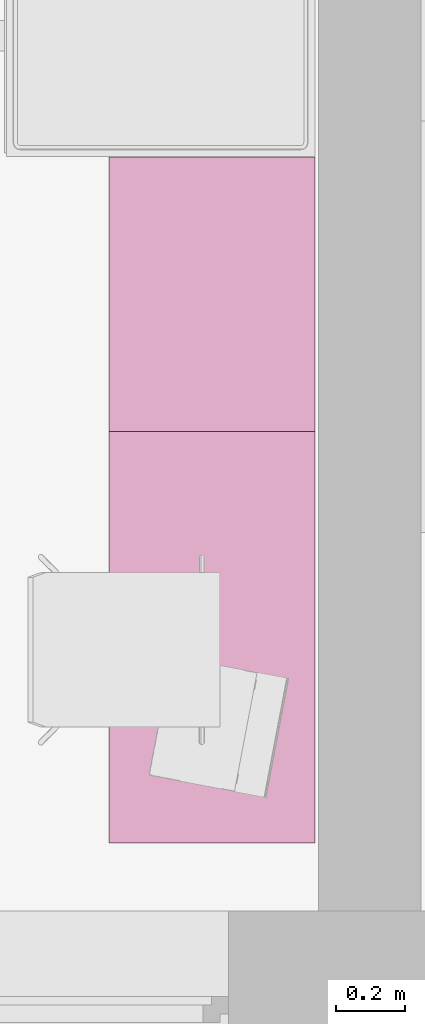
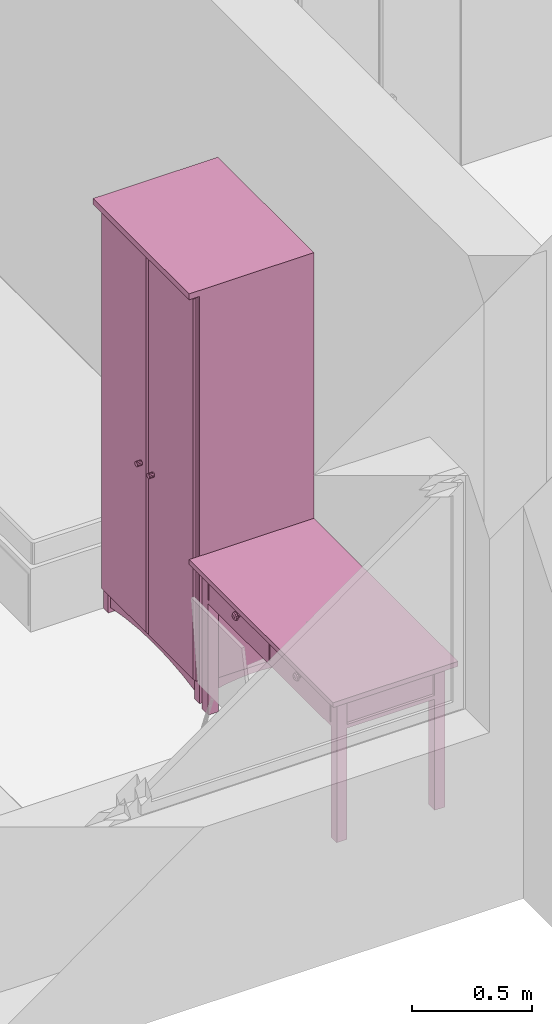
# One storey, part 115 of 165: 2 furnishings.
"""IFC2X3 building model written with IfcOpenShell, lengths in millimetres."""

import ifcopenshell
import ifcopenshell.guid

model = None  # the IFC model being written
_history = None  # IfcOwnerHistory: only IFC2X3 demands one
_inside = {}  # id of a spatial element -> (the spatial element, [elements in it])
_under = {}  # id of a project, library or spatial element -> (it, [spatial elements below it])
_declared = {}  # id of a project -> (the project, [libraries it declares])
_typed = {}  # id of a type object -> (the type object, [elements of that type])
_made_of = {}  # id of a material, layer set ... -> (it, [elements and type objects made of it])


def new_model(schema):
    """Start an empty IFC model of exactly this schema.

    Asked for "IFC4X3", IfcOpenShell would pick the latest addendum, in which some entities
    have other attributes; the version numbers below select the first issue.
    IFC2X3 requires an IfcOwnerHistory on every rooted entity: one is made here for all.
    """
    global model, _history
    if schema == "IFC4X3":
        model = ifcopenshell.file(schema_version=(4, 3, 0, 0))
    else:
        model = ifcopenshell.file(schema=schema)
    _inside.clear()
    _under.clear()
    _declared.clear()
    _typed.clear()
    _made_of.clear()
    _history = None
    if model.schema == "IFC2X3":
        org = make("IfcOrganization", Name="unknown")
        user = make(
            "IfcPersonAndOrganization",
            ThePerson=make("IfcPerson", FamilyName="unknown"),
            TheOrganization=org,
        )
        app = make(
            "IfcApplication",
            ApplicationDeveloper=org,
            Version="unknown",
            ApplicationFullName="unknown",
            ApplicationIdentifier="unknown",
        )
        _history = make(
            "IfcOwnerHistory",
            OwningUser=user,
            OwningApplication=app,
            ChangeAction="ADDED",
            CreationDate=0,
        )
    return model


def make(cls, **values):
    """One entity of the class cls with the attributes given. An attribute that is None is left unset."""
    return model.create_entity(
        cls, **{name: value for name, value in values.items() if value is not None}
    )


def entity(cls, *values):
    """Any entity or typed value of the class cls, its attributes in the order of the schema. None: left unset."""
    e = model.create_entity(cls)
    for i, value in enumerate(values):
        if value is not None:
            e[i] = value
    return e


def rooted(cls, **values):
    """An entity with a GlobalId (a new one), such as an element, a storey or a relation."""
    return make(cls, GlobalId=ifcopenshell.guid.new(), OwnerHistory=_history, **values)


def si_unit(unit_type, name, prefix=None):
    """IfcSIUnit, for example si_unit("LENGTHUNIT", "METRE", prefix="MILLI")."""
    return make("IfcSIUnit", UnitType=unit_type, Prefix=prefix, Name=name)


def converted_unit(unit_type, name, factor, base, dimensions=None, offset=None):
    """IfcConversionBasedUnit, such as the inch: factor (a typed value) times the base unit."""
    return make(
        "IfcConversionBasedUnit"
        if offset is None
        else "IfcConversionBasedUnitWithOffset",
        ConversionOffset=offset,
        Dimensions=None
        if dimensions is None
        else entity("IfcDimensionalExponents", *dimensions),
        UnitType=unit_type,
        Name=name,
        ConversionFactor=make(
            "IfcMeasureWithUnit", ValueComponent=factor, UnitComponent=base
        ),
    )


def money_unit(currency):
    """IfcMonetaryUnit."""
    return make("IfcMonetaryUnit", Currency=currency)


def assignment(units):
    """IfcUnitAssignment: the units of a project."""
    return None if units is None else make("IfcUnitAssignment", Units=units)


def point(xyz):
    """IfcCartesianPoint."""
    return None if xyz is None else make("IfcCartesianPoint", Coordinates=xyz)


def direction(xyz):
    """IfcDirection."""
    return None if xyz is None else make("IfcDirection", DirectionRatios=xyz)


def frame(location, z_axis=None, x_axis=None):
    """IfcAxis2Placement3D, a coordinate frame: its origin and axes. An axis left out is left unset."""
    return make(
        "IfcAxis2Placement3D",
        Location=point(location),
        Axis=direction(z_axis),
        RefDirection=direction(x_axis),
    )


def origin_with_axes():
    """The frame at (0, 0, 0) with the z axis (0, 0, 1) and the x axis (1, 0, 0) written out."""
    return frame((0.0, 0.0, 0.0), z_axis=(0.0, 0.0, 1.0), x_axis=(1.0, 0.0, 0.0))


def place(relative_to, where):
    """IfcLocalPlacement: puts the frame where relative to a parent placement (None: the world)."""
    return make(
        "IfcLocalPlacement", PlacementRelTo=relative_to, RelativePlacement=where
    )


def context(
    kind, dimensions, precision=None, world=None, true_north=None, identifier=None
):
    """IfcGeometricRepresentationContext, for example the 3D "Model" context."""
    return make(
        "IfcGeometricRepresentationContext",
        ContextIdentifier=identifier,
        ContextType=kind,
        CoordinateSpaceDimension=dimensions,
        Precision=precision,
        WorldCoordinateSystem=world,
        TrueNorth=true_north,
    )


def subcontext(parent, identifier, kind, view, scale=None):
    """IfcGeometricRepresentationSubContext, for example "Body" below "Model"."""
    return make(
        "IfcGeometricRepresentationSubContext",
        ContextIdentifier=identifier,
        ContextType=kind,
        ParentContext=parent,
        TargetScale=scale,
        TargetView=view,
    )


def project(units=None, contexts=None):
    """IfcProject with its units and contexts."""
    return rooted(
        "IfcProject",
        Name="project",
        RepresentationContexts=contexts,
        UnitsInContext=assignment(units),
    )


def spatial(cls, under=None, at=None, **own):
    """A site, building, storey or space (cls), placed at a placement, below another one or the project."""
    s = rooted(cls, ObjectPlacement=at, **own)
    if under is not None:
        _under.setdefault(under.id(), (under, []))[1].append(s)
    return s


def faces_of(points, faces, orient=None, outer=None):
    """IfcFace entities. A face is a list of loops; a loop is a list of indices into points, from 0.

    orient and outer hold one flag for each loop. By default every Orientation is true, the
    first loop of a face is its IfcFaceOuterBound and the others are IfcFaceBound.
    """
    made = []
    for i, loops in enumerate(faces):
        bounds = []
        for j, loop in enumerate(loops):
            is_outer = j == 0 if outer is None else outer[i][j]
            bounds.append(
                make(
                    "IfcFaceOuterBound" if is_outer else "IfcFaceBound",
                    Bound=make("IfcPolyLoop", Polygon=[points[k] for k in loop]),
                    Orientation=True if orient is None else orient[i][j],
                )
            )
        made.append(make("IfcFace", Bounds=bounds))
    return made


def faceted_brep(points, faces, orient=None, outer=None, voids=None):
    """IfcFacetedBrep: a solid bounded by flat faces; with voids (closed shells), ...WithVoids."""
    shared = [point(p) for p in points]
    hull = make("IfcClosedShell", CfsFaces=faces_of(shared, faces, orient, outer))
    if voids is None:
        return make("IfcFacetedBrep", Outer=hull)
    return make(
        "IfcFacetedBrepWithVoids",
        Outer=hull,
        Voids=[
            make(cls, CfsFaces=faces_of(shared, fs, o, b)) for cls, fs, o, b in voids
        ],
    )


def shape(context_of_items, identifier, shape_type, items):
    """IfcShapeRepresentation: the items that make up one representation, for example the "Body"."""
    return make(
        "IfcShapeRepresentation",
        ContextOfItems=context_of_items,
        RepresentationIdentifier=identifier,
        RepresentationType=shape_type,
        Items=items,
    )


def source(mapping_origin, context_of_items, identifier, shape_type, items):
    """IfcRepresentationMap: a shape defined once, which mapped items show again and again."""
    return make(
        "IfcRepresentationMap",
        MappingOrigin=mapping_origin,
        MappedRepresentation=shape(context_of_items, identifier, shape_type, items),
    )


def transform(
    local_origin,
    x_axis=None,
    y_axis=None,
    z_axis=None,
    scale=None,
    scale2=None,
    scale3=None,
    uniform=True,
):
    """IfcCartesianTransformationOperator3D, or its non-uniform kind. x_axis, y_axis, z_axis: its Axis1, 2, 3."""
    if uniform:
        return make(
            "IfcCartesianTransformationOperator3D",
            Axis1=direction(x_axis),
            Axis2=direction(y_axis),
            LocalOrigin=point(local_origin),
            Scale=scale,
            Axis3=direction(z_axis),
        )
    return make(
        "IfcCartesianTransformationOperator3DnonUniform",
        Axis1=direction(x_axis),
        Axis2=direction(y_axis),
        LocalOrigin=point(local_origin),
        Scale=scale,
        Axis3=direction(z_axis),
        Scale2=scale2,
        Scale3=scale3,
    )


def mapped(mapping_source, mapping_target):
    """IfcMappedItem: shows the shape of a source again, moved by a transform."""
    return make(
        "IfcMappedItem", MappingSource=mapping_source, MappingTarget=mapping_target
    )


def material(Name=None, Category=None):
    """IfcMaterial."""
    return make("IfcMaterial", Name=Name, Category=Category)


def material_list(materials):
    """IfcMaterialList."""
    return make("IfcMaterialList", Materials=materials)


def made_of(thing, what):
    """Note that an element or type object is made of a material, layer set ...; save() writes the relation."""
    if what is not None:
        _made_of.setdefault(what.id(), (what, []))[1].append(thing)
    return thing


def type_object(cls, material=None, **own):
    """A type object (cls), such as IfcWallType, which elements share."""
    return made_of(rooted(cls, **own), material)


def element(
    cls,
    number,
    at=None,
    inside=None,
    cuts=None,
    type_object=None,
    material=None,
    context=None,
    identifier="Body",
    shape_type=None,
    held_by="IfcProductDefinitionShape",
    body=None,
    shapes=None,
    **own,
):
    """One element of the class cls, such as IfcWall. Its Tag is "e" and its number.

    at: its placement. inside: the storey or other place that contains it. cuts: it is an
    opening in that element (IfcRelVoidsElement). A single representation is given by context,
    identifier, shape_type and body (its items); several are given by shapes. held_by: the class
    of the entity that holds the representations. save() writes the other relations.
    """
    e = rooted(cls, Tag="e%d" % number, ObjectPlacement=at, **own)
    if body is not None:
        shapes = [shape(context, identifier, shape_type, body)]
    if shapes is not None:
        e.Representation = make(held_by, Representations=shapes)
    if inside is not None:
        _inside.setdefault(inside.id(), (inside, []))[1].append(e)
    if cuts is not None:
        rooted(
            "IfcRelVoidsElement", RelatingBuildingElement=cuts, RelatedOpeningElement=e
        )
    if type_object is not None:
        _typed.setdefault(type_object.id(), (type_object, []))[1].append(e)
    return made_of(e, material)


def aggregate(whole, parts):
    """IfcRelAggregates: a whole, such as a stair, and the parts it consists of."""
    return rooted("IfcRelAggregates", RelatingObject=whole, RelatedObjects=parts)


def save(model, path):
    """Write the relations noted so far, then the file.

    IfcRelAggregates (storeys below a building ...), IfcRelContainedInSpatialStructure (elements
    in a storey), IfcRelDefinesByType, IfcRelAssociatesMaterial and IfcRelDeclares: one each for
    every whole, place, type object, material and project.
    """
    for whole, parts in _under.values():
        aggregate(whole, parts)
    for where, things in _inside.values():
        rooted(
            "IfcRelContainedInSpatialStructure",
            RelatedElements=things,
            RelatingStructure=where,
        )
    for kind, things in _typed.values():
        rooted("IfcRelDefinesByType", RelatedObjects=things, RelatingType=kind)
    for what, things in _made_of.values():
        rooted("IfcRelAssociatesMaterial", RelatedObjects=things, RelatingMaterial=what)
    for by, libraries in _declared.values():
        rooted("IfcRelDeclares", RelatingContext=by, RelatedDefinitions=libraries)
    model.write(path)


model = new_model("IFC2X3")

# Units and contexts
model_context = context("Model", 3, precision=1e-05, world=origin_with_axes(), true_north=direction((0.0, 1.0)))
body_context = subcontext(model_context, "Body", "Model", "MODEL_VIEW")
ifc_project = project(units=[si_unit("LENGTHUNIT", "METRE", prefix="MILLI"), si_unit("AREAUNIT", "SQUARE_METRE"), si_unit("VOLUMEUNIT", "CUBIC_METRE"), converted_unit("PLANEANGLEUNIT", "DEGREE", entity("IfcPlaneAngleMeasure", 0.0174532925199), si_unit("PLANEANGLEUNIT", "RADIAN"), dimensions=[0, 0, 0, 0, 0, 0, 0]), si_unit("SOLIDANGLEUNIT", "STERADIAN"), money_unit("USD"), converted_unit("TIMEUNIT", "Year", entity("IfcTimeMeasure", 31556926.0), si_unit("TIMEUNIT", "SECOND"), dimensions=[0, 0, 0, 0, 0, 0, 0]), si_unit("MASSUNIT", "GRAM"), si_unit("THERMODYNAMICTEMPERATUREUNIT", "DEGREE_CELSIUS"), si_unit("LUMINOUSINTENSITYUNIT", "LUMEN")], contexts=[model_context])

# Site, building, storey
site_placement = place(None, origin_with_axes())
site = spatial("IfcSite", under=ifc_project, at=site_placement, Name="Site", CompositionType="ELEMENT")
building_placement = place(site_placement, origin_with_axes())
building = spatial("IfcBuilding", under=site, at=building_placement, Name="Building", CompositionType="ELEMENT")
storey_placement = place(building_placement, frame((0.0, 0.0, 6300.0), z_axis=(0.0, 0.0, 1.0), x_axis=(1.0, 0.0, 0.0)))
storey = spatial("IfcBuildingStorey", under=building, at=storey_placement, Name="4KORRUS", CompositionType="ELEMENT", Elevation=6300.0)

# Furnishings
ifc_material = material(Name="Background")
ifc_material_list = material_list([ifc_material])
furnishing_element_type_1 = type_object("IfcFurnishingElementType", Name="Cupboard 19")
shared_shape_1 = source(origin_with_axes(), body_context, "Body", "Brep", [
    faceted_brep([(-780.0, 600.0, 120.0), (-780.0, 580.0, 120.0), (-780.0, 580.0, 2050.0), (-780.0, 600.0, 2050.0), (-20.0, 600.0, 120.0), (-20.0, 580.0, 120.0), (-20.0, 580.0, 2050.0), (-20.0, 600.0, 2050.0)], [[[0, 1, 2, 3]], [[0, 4, 5, 1]], [[1, 5, 6, 2]], [[3, 2, 6, 7]], [[4, 0, 3, 7]], [[5, 4, 7, 6]]]),
    faceted_brep([(0.0, 50.0, 100.0), (-20.0, 50.0, 100.0), (-20.0, 600.0, 100.0), (0.0, 600.0, 100.0), (0.0, 50.0, 2070.0), (-20.0, 50.0, 2070.0), (-20.0, 600.0, 2070.0), (0.0, 600.0, 2070.0)], [[[0, 1, 2, 3]], [[1, 0, 4, 5]], [[2, 1, 5, 6]], [[3, 2, 6, 7]], [[0, 3, 7, 4]], [[5, 4, 7, 6]]]),
    faceted_brep([(-780.0, 50.0, 100.0), (-800.0, 50.0, 100.0), (-800.0, 600.0, 100.0), (-780.0, 600.0, 100.0), (-780.0, 50.0, 2070.0), (-800.0, 50.0, 2070.0), (-800.0, 600.0, 2070.0), (-780.0, 600.0, 2070.0)], [[[0, 1, 2, 3]], [[1, 0, 4, 5]], [[2, 1, 5, 6]], [[3, 2, 6, 7]], [[0, 3, 7, 4]], [[5, 4, 7, 6]]]),
    faceted_brep([(-20.0, 50.0, 100.0), (-780.0, 50.0, 100.0), (-780.0, 600.0, 100.0), (-20.0, 600.0, 100.0), (-20.0, 50.0, 120.0), (-780.0, 50.0, 120.0), (-780.0, 600.0, 120.0), (-20.0, 600.0, 120.0)], [[[0, 1, 2, 3]], [[1, 0, 4, 5]], [[2, 1, 5, 6]], [[3, 2, 6, 7]], [[0, 3, 7, 4]], [[5, 4, 7, 6]]]),
    faceted_brep([(-20.0, 50.0, 2050.0), (-780.0, 50.0, 2050.0), (-780.0, 600.0, 2050.0), (-20.0, 600.0, 2050.0), (-20.0, 50.0, 2070.0), (-780.0, 50.0, 2070.0), (-780.0, 600.0, 2070.0), (-20.0, 600.0, 2070.0)], [[[0, 1, 2, 3]], [[1, 0, 4, 5]], [[2, 1, 5, 6]], [[3, 2, 6, 7]], [[0, 3, 7, 4]], [[5, 4, 7, 6]]]),
    faceted_brep([(0.0, 600.0, 2070.0), (0.0, 600.0, 2100.0), (0.0, 0.0, 2100.0), (0.0, 0.0, 2070.0), (-800.0, 600.0, 2070.0), (-800.0, 600.0, 2100.0), (-800.0, 0.0, 2100.0), (-800.0, 0.0, 2070.0)], [[[0, 1, 2, 3]], [[4, 5, 1, 0]], [[1, 5, 6, 2]], [[3, 2, 6, 7]], [[0, 3, 7, 4]], [[7, 6, 5, 4]]]),
    faceted_brep([(-760.0, 590.0, 25.0), (-640.962, 590.0, 45.8), (-640.962, 570.0, 45.8), (-760.0, 570.0, 25.0), (-760.0, 590.0, 100.0), (-40.0, 590.0, 100.0), (-40.0, 590.0, 25.0), (-159.038, 590.0, 45.8), (-279.23, 590.0, 58.32), (-400.0, 590.0, 62.5), (-520.77, 590.0, 58.32), (-520.77, 570.0, 58.32), (-400.0, 570.0, 62.5), (-279.23, 570.0, 58.32), (-159.038, 570.0, 45.8), (-40.0, 570.0, 25.0), (-40.0, 570.0, 100.0), (-760.0, 570.0, 100.0)], [[[0, 1, 2, 3]], [[0, 4, 5, 6, 7, 8, 9, 10, 1]], [[1, 10, 11, 2]], [[3, 2, 11, 12, 13, 14, 15, 16, 17]], [[4, 0, 3, 17]], [[5, 4, 17, 16]], [[6, 5, 16, 15]], [[7, 6, 15, 14]], [[8, 7, 14, 13]], [[9, 8, 13, 12]], [[10, 9, 12, 11]]]),
    faceted_brep([(-760.0, 80.0, 25.0), (-640.962, 80.0, 45.8), (-640.962, 60.0, 45.8), (-760.0, 60.0, 25.0), (-760.0, 80.0, 100.0), (-40.0, 80.0, 100.0), (-40.0, 80.0, 25.0), (-159.038, 80.0, 45.8), (-279.23, 80.0, 58.32), (-400.0, 80.0, 62.5), (-520.77, 80.0, 58.32), (-520.77, 60.0, 58.32), (-400.0, 60.0, 62.5), (-279.23, 60.0, 58.32), (-159.038, 60.0, 45.8), (-40.0, 60.0, 25.0), (-40.0, 60.0, 100.0), (-760.0, 60.0, 100.0)], [[[0, 1, 2, 3]], [[0, 4, 5, 6, 7, 8, 9, 10, 1]], [[1, 10, 11, 2]], [[3, 2, 11, 12, 13, 14, 15, 16, 17]], [[4, 0, 3, 17]], [[5, 4, 17, 16]], [[6, 5, 16, 15]], [[7, 6, 15, 14]], [[8, 7, 14, 13]], [[9, 8, 13, 12]], [[10, 9, 12, 11]]]),
    faceted_brep([(-790.0, 90.0, 25.0), (-790.0, 141.266, 38.072), (-770.0, 141.266, 38.072), (-770.0, 90.0, 25.0), (-790.0, 90.0, 100.0), (-790.0, 560.0, 100.0), (-790.0, 560.0, 25.0), (-790.0, 508.734, 38.072), (-790.0, 456.752, 47.92), (-790.0, 404.257, 54.508), (-790.0, 351.453, 57.808), (-790.0, 298.547, 57.808), (-790.0, 245.743, 54.508), (-790.0, 193.248, 47.92), (-770.0, 193.248, 47.92), (-770.0, 245.743, 54.508), (-770.0, 298.547, 57.808), (-770.0, 351.453, 57.808), (-770.0, 404.257, 54.508), (-770.0, 456.752, 47.92), (-770.0, 508.734, 38.072), (-770.0, 560.0, 25.0), (-770.0, 560.0, 100.0), (-770.0, 90.0, 100.0)], [[[0, 1, 2, 3]], [[0, 4, 5, 6, 7, 8, 9, 10, 11, 12, 13, 1]], [[1, 13, 14, 2]], [[3, 2, 14, 15, 16, 17, 18, 19, 20, 21, 22, 23]], [[4, 0, 3, 23]], [[5, 4, 23, 22]], [[6, 5, 22, 21]], [[7, 6, 21, 20]], [[8, 7, 20, 19]], [[9, 8, 19, 18]], [[10, 9, 18, 17]], [[11, 10, 17, 16]], [[12, 11, 16, 15]], [[13, 12, 15, 14]]]),
    faceted_brep([(-30.0, 90.0, 25.0), (-30.0, 141.266, 38.072), (-10.0, 141.266, 38.072), (-10.0, 90.0, 25.0), (-30.0, 90.0, 100.0), (-30.0, 560.0, 100.0), (-30.0, 560.0, 25.0), (-30.0, 508.734, 38.072), (-30.0, 456.752, 47.92), (-30.0, 404.257, 54.508), (-30.0, 351.453, 57.808), (-30.0, 298.547, 57.808), (-30.0, 245.743, 54.508), (-30.0, 193.248, 47.92), (-10.0, 193.248, 47.92), (-10.0, 245.743, 54.508), (-10.0, 298.547, 57.808), (-10.0, 351.453, 57.808), (-10.0, 404.257, 54.508), (-10.0, 456.752, 47.92), (-10.0, 508.734, 38.072), (-10.0, 560.0, 25.0), (-10.0, 560.0, 100.0), (-10.0, 90.0, 100.0)], [[[0, 1, 2, 3]], [[0, 4, 5, 6, 7, 8, 9, 10, 11, 12, 13, 1]], [[1, 13, 14, 2]], [[3, 2, 14, 15, 16, 17, 18, 19, 20, 21, 22, 23]], [[4, 0, 3, 23]], [[5, 4, 23, 22]], [[6, 5, 22, 21]], [[7, 6, 21, 20]], [[8, 7, 20, 19]], [[9, 8, 19, 18]], [[10, 9, 18, 17]], [[11, 10, 17, 16]], [[12, 11, 16, 15]], [[13, 12, 15, 14]]]),
    faceted_brep([(-760.0, 560.0, 0.0), (-760.0, 600.0, 0.0), (-760.0, 600.0, 100.0), (-760.0, 560.0, 100.0), (-800.0, 560.0, 0.0), (-800.0, 600.0, 0.0), (-800.0, 600.0, 100.0), (-800.0, 560.0, 100.0)], [[[0, 1, 2, 3]], [[0, 4, 5, 1]], [[1, 5, 6, 2]], [[3, 2, 6, 7]], [[4, 0, 3, 7]], [[5, 4, 7, 6]]]),
    faceted_brep([(0.0, 560.0, 0.0), (0.0, 600.0, 0.0), (0.0, 600.0, 100.0), (0.0, 560.0, 100.0), (-40.0, 560.0, 0.0), (-40.0, 600.0, 0.0), (-40.0, 600.0, 100.0), (-40.0, 560.0, 100.0)], [[[0, 1, 2, 3]], [[0, 4, 5, 1]], [[1, 5, 6, 2]], [[3, 2, 6, 7]], [[4, 0, 3, 7]], [[5, 4, 7, 6]]]),
    faceted_brep([(-760.0, 50.0, 0.0), (-760.0, 90.0, 0.0), (-760.0, 90.0, 100.0), (-760.0, 50.0, 100.0), (-800.0, 50.0, 0.0), (-800.0, 90.0, 0.0), (-800.0, 90.0, 100.0), (-800.0, 50.0, 100.0)], [[[0, 1, 2, 3]], [[0, 4, 5, 1]], [[1, 5, 6, 2]], [[3, 2, 6, 7]], [[4, 0, 3, 7]], [[5, 4, 7, 6]]]),
    faceted_brep([(0.0, 50.0, 0.0), (0.0, 90.0, 0.0), (0.0, 90.0, 100.0), (0.0, 50.0, 100.0), (-40.0, 50.0, 0.0), (-40.0, 90.0, 0.0), (-40.0, 90.0, 100.0), (-40.0, 50.0, 100.0)], [[[0, 1, 2, 3]], [[0, 4, 5, 1]], [[1, 5, 6, 2]], [[3, 2, 6, 7]], [[4, 0, 3, 7]], [[5, 4, 7, 6]]]),
    faceted_brep([(-780.0, 580.0, 587.5), (-780.0, 50.0, 587.5), (-780.0, 50.0, 607.5), (-780.0, 580.0, 607.5), (-20.0, 580.0, 587.5), (-20.0, 50.0, 587.5), (-20.0, 50.0, 607.5), (-20.0, 580.0, 607.5)], [[[0, 1, 2, 3]], [[0, 4, 5, 1]], [[1, 5, 6, 2]], [[3, 2, 6, 7]], [[4, 0, 3, 7]], [[5, 4, 7, 6]]]),
    faceted_brep([(-780.0, 580.0, 1075.0), (-780.0, 50.0, 1075.0), (-780.0, 50.0, 1095.0), (-780.0, 580.0, 1095.0), (-20.0, 580.0, 1075.0), (-20.0, 50.0, 1075.0), (-20.0, 50.0, 1095.0), (-20.0, 580.0, 1095.0)], [[[0, 1, 2, 3]], [[0, 4, 5, 1]], [[1, 5, 6, 2]], [[3, 2, 6, 7]], [[4, 0, 3, 7]], [[5, 4, 7, 6]]]),
    faceted_brep([(-780.0, 580.0, 1562.5), (-780.0, 50.0, 1562.5), (-780.0, 50.0, 1582.5), (-780.0, 580.0, 1582.5), (-20.0, 580.0, 1562.5), (-20.0, 50.0, 1562.5), (-20.0, 50.0, 1582.5), (-20.0, 580.0, 1582.5)], [[[0, 1, 2, 3]], [[0, 4, 5, 1]], [[1, 5, 6, 2]], [[3, 2, 6, 7]], [[4, 0, 3, 7]], [[5, 4, 7, 6]]]),
    faceted_brep([(-789.5, 50.0, 110.5), (-789.5, 50.0, 2059.5), (-400.5, 50.0, 2059.5), (-400.5, 50.0, 110.5), (-789.5, 40.0, 110.5), (-789.5, 40.0, 2059.5), (-400.5, 40.0, 2059.5), (-400.5, 40.0, 110.5), (-779.5, 30.0, 120.5), (-779.5, 30.0, 2049.5), (-410.5, 30.0, 2049.5), (-410.5, 30.0, 120.5)], [[[0, 1, 2, 3]], [[1, 0, 4, 5]], [[2, 1, 5, 6]], [[3, 2, 6, 7]], [[0, 3, 7, 4]], [[5, 4, 8, 9]], [[6, 5, 9, 10]], [[7, 6, 10, 11]], [[4, 7, 11, 8]], [[10, 9, 8, 11]]]),
    faceted_brep([(-399.5, 50.0, 110.5), (-399.5, 50.0, 2059.5), (-10.5, 50.0, 2059.5), (-10.5, 50.0, 110.5), (-399.5, 40.0, 110.5), (-399.5, 40.0, 2059.5), (-10.5, 40.0, 2059.5), (-10.5, 40.0, 110.5), (-389.5, 30.0, 120.5), (-389.5, 30.0, 2049.5), (-20.5, 30.0, 2049.5), (-20.5, 30.0, 120.5)], [[[0, 1, 2, 3]], [[1, 0, 4, 5]], [[2, 1, 5, 6]], [[3, 2, 6, 7]], [[0, 3, 7, 4]], [[5, 4, 8, 9]], [[6, 5, 9, 10]], [[7, 6, 10, 11]], [[4, 7, 11, 8]], [[10, 9, 8, 11]]]),
    faceted_brep([(-339.608, 30.0, 954.0), (-344.0, 30.0, 949.608), (-350.0, 30.0, 948.0), (-356.0, 30.0, 949.608), (-360.392, 30.0, 954.0), (-362.0, 30.0, 960.0), (-360.392, 30.0, 966.0), (-356.0, 30.0, 970.392), (-350.0, 30.0, 972.0), (-344.0, 30.0, 970.392), (-339.608, 30.0, 966.0), (-338.0, 30.0, 960.0), (-339.608, 5.0, 954.0), (-344.0, 5.0, 949.608), (-350.0, 5.0, 948.0), (-356.0, 5.0, 949.608), (-360.392, 5.0, 954.0), (-362.0, 5.0, 960.0), (-360.392, 5.0, 966.0), (-356.0, 5.0, 970.392), (-350.0, 5.0, 972.0), (-344.0, 5.0, 970.392), (-339.608, 5.0, 966.0), (-338.0, 5.0, 960.0)], [[[0, 1, 2, 3, 4, 5, 6, 7, 8, 9, 10, 11]], [[1, 0, 12, 13]], [[2, 1, 13, 14]], [[3, 2, 14, 15]], [[4, 3, 15, 16]], [[5, 4, 16, 17]], [[6, 5, 17, 18]], [[7, 6, 18, 19]], [[8, 7, 19, 20]], [[9, 8, 20, 21]], [[10, 9, 21, 22]], [[11, 10, 22, 23]], [[0, 11, 23, 12]], [[12, 23, 22, 21, 20, 19, 18, 17, 16, 15, 14, 13]]]),
    faceted_brep([(-460.392, 30.0, 954.0), (-462.0, 30.0, 960.0), (-460.392, 30.0, 966.0), (-456.0, 30.0, 970.392), (-450.0, 30.0, 972.0), (-444.0, 30.0, 970.392), (-439.608, 30.0, 966.0), (-438.0, 30.0, 960.0), (-439.608, 30.0, 954.0), (-444.0, 30.0, 949.608), (-450.0, 30.0, 948.0), (-456.0, 30.0, 949.608), (-460.392, 5.0, 954.0), (-462.0, 5.0, 960.0), (-460.392, 5.0, 966.0), (-456.0, 5.0, 970.392), (-450.0, 5.0, 972.0), (-444.0, 5.0, 970.392), (-439.608, 5.0, 966.0), (-438.0, 5.0, 960.0), (-439.608, 5.0, 954.0), (-444.0, 5.0, 949.608), (-450.0, 5.0, 948.0), (-456.0, 5.0, 949.608)], [[[0, 1, 2, 3, 4, 5, 6, 7, 8, 9, 10, 11]], [[0, 12, 13, 1]], [[1, 13, 14, 2]], [[2, 14, 15, 3]], [[3, 15, 16, 4]], [[4, 16, 17, 5]], [[5, 17, 18, 6]], [[6, 18, 19, 7]], [[7, 19, 20, 8]], [[8, 20, 21, 9]], [[9, 21, 22, 10]], [[10, 22, 23, 11]], [[11, 23, 12, 0]], [[12, 23, 22, 21, 20, 19, 18, 17, 16, 15, 14, 13]]]),
])
furnishing_1_placement = place(storey_placement, frame((-900.43715218, -18240.790821, 0.0), z_axis=(0.0, 0.0, 1.0), x_axis=(0.0, -1.0, 0.0)))
element("IfcFurnishingElement", 1, at=furnishing_1_placement, inside=storey, type_object=furnishing_element_type_1, material=ifc_material_list, Name="FU - 014", context=body_context, shape_type="MappedRepresentation", body=[
    mapped(shared_shape_1, transform((0.0, 0.0, 0.0))),
])
furnishing_element_type_2 = type_object("IfcFurnishingElementType", Name="Rectangular Table 01 19")
shared_shape_2 = source(origin_with_axes(), body_context, "Body", "Brep", [
    faceted_brep([(-90.0, 40.0, 0.0), (-90.0, 90.0, 0.0), (-40.0, 90.0, 0.0), (-40.0, 40.0, 0.0), (-90.0, 40.0, 725.0), (-90.0, 90.0, 725.0), (-40.0, 90.0, 725.0), (-40.0, 40.0, 725.0)], [[[0, 1, 2, 3]], [[0, 4, 5, 1]], [[1, 5, 6, 2]], [[2, 6, 7, 3]], [[3, 7, 4, 0]], [[7, 6, 5, 4]]]),
    faceted_brep([(-1160.0, 40.0, 0.0), (-1160.0, 90.0, 0.0), (-1110.0, 90.0, 0.0), (-1110.0, 40.0, 0.0), (-1160.0, 40.0, 725.0), (-1160.0, 90.0, 725.0), (-1110.0, 90.0, 725.0), (-1110.0, 40.0, 725.0)], [[[0, 1, 2, 3]], [[0, 4, 5, 1]], [[1, 5, 6, 2]], [[2, 6, 7, 3]], [[3, 7, 4, 0]], [[7, 6, 5, 4]]]),
    faceted_brep([(-90.0, 510.0, 0.0), (-90.0, 560.0, 0.0), (-40.0, 560.0, 0.0), (-40.0, 510.0, 0.0), (-90.0, 510.0, 725.0), (-90.0, 560.0, 725.0), (-40.0, 560.0, 725.0), (-40.0, 510.0, 725.0)], [[[0, 1, 2, 3]], [[0, 4, 5, 1]], [[1, 5, 6, 2]], [[2, 6, 7, 3]], [[3, 7, 4, 0]], [[7, 6, 5, 4]]]),
    faceted_brep([(-1160.0, 510.0, 0.0), (-1160.0, 560.0, 0.0), (-1110.0, 560.0, 0.0), (-1110.0, 510.0, 0.0), (-1160.0, 510.0, 725.0), (-1160.0, 560.0, 725.0), (-1110.0, 560.0, 725.0), (-1110.0, 510.0, 725.0)], [[[0, 1, 2, 3]], [[0, 4, 5, 1]], [[1, 5, 6, 2]], [[2, 6, 7, 3]], [[3, 7, 4, 0]], [[7, 6, 5, 4]]]),
    faceted_brep([(-1160.0, 40.0, 565.0), (-1160.0, 560.0, 565.0), (-40.0, 560.0, 565.0), (-40.0, 40.0, 565.0), (-1160.0, 40.0, 585.0), (-1160.0, 560.0, 585.0), (-40.0, 560.0, 585.0), (-40.0, 40.0, 585.0)], [[[0, 1, 2, 3]], [[0, 4, 5, 1]], [[1, 5, 6, 2]], [[2, 6, 7, 3]], [[3, 7, 4, 0]], [[7, 6, 5, 4]]]),
    faceted_brep([(-1110.0, 52.5, 585.0), (-1110.0, 77.5, 585.0), (-90.0, 77.5, 585.0), (-90.0, 52.5, 585.0), (-1110.0, 52.5, 745.0), (-1110.0, 77.5, 745.0), (-90.0, 77.5, 745.0), (-90.0, 52.5, 745.0)], [[[0, 1, 2, 3]], [[0, 4, 5, 1]], [[1, 5, 6, 2]], [[2, 6, 7, 3]], [[3, 7, 4, 0]], [[7, 6, 5, 4]]]),
    faceted_brep([(-77.5, 90.0, 585.0), (-77.5, 510.0, 585.0), (-52.5, 510.0, 585.0), (-52.5, 90.0, 585.0), (-77.5, 90.0, 745.0), (-77.5, 510.0, 745.0), (-52.5, 510.0, 745.0), (-52.5, 90.0, 745.0)], [[[0, 1, 2, 3]], [[0, 4, 5, 1]], [[1, 5, 6, 2]], [[2, 6, 7, 3]], [[3, 7, 4, 0]], [[7, 6, 5, 4]]]),
    faceted_brep([(-90.0, 547.5, 585.0), (-90.0, 522.5, 585.0), (-1110.0, 522.5, 585.0), (-1110.0, 547.5, 585.0), (-90.0, 547.5, 745.0), (-90.0, 522.5, 745.0), (-1110.0, 522.5, 745.0), (-1110.0, 547.5, 745.0)], [[[0, 1, 2, 3]], [[0, 4, 5, 1]], [[1, 5, 6, 2]], [[2, 6, 7, 3]], [[3, 7, 4, 0]], [[7, 6, 5, 4]]]),
    faceted_brep([(-1122.5, 510.0, 585.0), (-1122.5, 90.0, 585.0), (-1147.5, 90.0, 585.0), (-1147.5, 510.0, 585.0), (-1122.5, 510.0, 745.0), (-1122.5, 90.0, 745.0), (-1147.5, 90.0, 745.0), (-1147.5, 510.0, 745.0)], [[[0, 1, 2, 3]], [[0, 4, 5, 1]], [[1, 5, 6, 2]], [[2, 6, 7, 3]], [[3, 7, 4, 0]], [[7, 6, 5, 4]]]),
    faceted_brep([(-597.5, 40.0, 585.0), (-597.5, 60.0, 585.0), (-95.0, 60.0, 585.0), (-95.0, 40.0, 585.0), (-597.5, 40.0, 745.0), (-597.5, 60.0, 745.0), (-95.0, 60.0, 745.0), (-95.0, 40.0, 745.0)], [[[0, 1, 2, 3]], [[0, 4, 5, 1]], [[1, 5, 6, 2]], [[2, 6, 7, 3]], [[3, 7, 4, 0]], [[7, 6, 5, 4]]]),
    faceted_brep([(-1105.0, 40.0, 585.0), (-1105.0, 60.0, 585.0), (-602.5, 60.0, 585.0), (-602.5, 40.0, 585.0), (-1105.0, 40.0, 745.0), (-1105.0, 60.0, 745.0), (-602.5, 60.0, 745.0), (-602.5, 40.0, 745.0)], [[[0, 1, 2, 3]], [[0, 4, 5, 1]], [[1, 5, 6, 2]], [[2, 6, 7, 3]], [[3, 7, 4, 0]], [[7, 6, 5, 4]]]),
    faceted_brep([(-354.91, 40.0, 660.0), (-356.25, 40.0, 665.0), (-354.91, 40.0, 670.0), (-351.25, 40.0, 673.66), (-346.25, 40.0, 675.0), (-341.25, 40.0, 673.66), (-337.59, 40.0, 670.0), (-336.25, 40.0, 665.0), (-337.59, 40.0, 660.0), (-341.25, 40.0, 656.34), (-346.25, 40.0, 655.0), (-351.25, 40.0, 656.34), (-354.91, 25.0, 660.0), (-356.25, 25.0, 665.0), (-354.91, 25.0, 670.0), (-351.25, 25.0, 673.66), (-346.25, 25.0, 675.0), (-341.25, 25.0, 673.66), (-337.59, 25.0, 670.0), (-336.25, 25.0, 665.0), (-337.59, 25.0, 660.0), (-341.25, 25.0, 656.34), (-346.25, 25.0, 655.0), (-351.25, 25.0, 656.34)], [[[0, 1, 2, 3, 4, 5, 6, 7, 8, 9, 10, 11]], [[0, 12, 13, 1]], [[1, 13, 14, 2]], [[2, 14, 15, 3]], [[3, 15, 16, 4]], [[4, 16, 17, 5]], [[5, 17, 18, 6]], [[6, 18, 19, 7]], [[7, 19, 20, 8]], [[8, 20, 21, 9]], [[9, 21, 22, 10]], [[10, 22, 23, 11]], [[11, 23, 12, 0]], [[12, 23, 22, 21, 20, 19, 18, 17, 16, 15, 14, 13]]]),
    faceted_brep([(-356.25, 12.01, 665.0), (-354.91, 12.01, 660.0), (-346.25, 10.0, 665.0), (-363.571, 17.5, 665.0), (-361.25, 17.5, 656.34), (-351.25, 12.01, 656.34), (-354.91, 12.01, 670.0), (-366.25, 25.0, 665.0), (-363.571, 25.0, 655.0), (-354.91, 17.5, 650.0), (-361.25, 17.5, 673.66), (-346.25, 12.01, 655.0), (-351.25, 12.01, 673.66), (-363.571, 25.0, 675.0), (-356.25, 25.0, 682.321), (-346.25, 25.0, 685.0), (-336.25, 25.0, 682.321), (-328.929, 25.0, 675.0), (-326.25, 25.0, 665.0), (-328.929, 25.0, 655.0), (-336.25, 25.0, 647.679), (-346.25, 25.0, 645.0), (-356.25, 25.0, 647.679), (-346.25, 17.5, 647.679), (-354.91, 17.5, 680.0), (-341.25, 12.01, 656.34), (-346.25, 12.01, 675.0), (-346.25, 17.5, 682.321), (-337.59, 17.5, 680.0), (-331.25, 17.5, 673.66), (-328.929, 17.5, 665.0), (-331.25, 17.5, 656.34), (-337.59, 17.5, 650.0), (-337.59, 12.01, 660.0), (-341.25, 12.01, 673.66), (-337.59, 12.01, 670.0), (-336.25, 12.01, 665.0)], [[[0, 1, 2]], [[3, 4, 1, 0]], [[1, 5, 2]], [[6, 0, 2]], [[7, 8, 4, 3]], [[4, 9, 5, 1]], [[10, 3, 0, 6]], [[5, 11, 2]], [[12, 6, 2]], [[8, 7, 13, 14, 15, 16, 17, 18, 19, 20, 21, 22]], [[8, 22, 9, 4]], [[13, 7, 3, 10]], [[9, 23, 11, 5]], [[24, 10, 6, 12]], [[11, 25, 2]], [[26, 12, 2]], [[14, 13, 10, 24]], [[15, 14, 24, 27]], [[16, 15, 27, 28]], [[17, 16, 28, 29]], [[18, 17, 29, 30]], [[19, 18, 30, 31]], [[20, 19, 31, 32]], [[21, 20, 32, 23]], [[22, 21, 23, 9]], [[23, 32, 25, 11]], [[27, 24, 12, 26]], [[25, 33, 2]], [[34, 26, 2]], [[28, 27, 26, 34]], [[29, 28, 34, 35]], [[30, 29, 35, 36]], [[31, 30, 36, 33]], [[32, 31, 33, 25]], [[33, 36, 2]], [[35, 34, 2]], [[36, 35, 2]]]),
    faceted_brep([(-862.41, 40.0, 660.0), (-863.75, 40.0, 665.0), (-862.41, 40.0, 670.0), (-858.75, 40.0, 673.66), (-853.75, 40.0, 675.0), (-848.75, 40.0, 673.66), (-845.09, 40.0, 670.0), (-843.75, 40.0, 665.0), (-845.09, 40.0, 660.0), (-848.75, 40.0, 656.34), (-853.75, 40.0, 655.0), (-858.75, 40.0, 656.34), (-862.41, 25.0, 660.0), (-863.75, 25.0, 665.0), (-862.41, 25.0, 670.0), (-858.75, 25.0, 673.66), (-853.75, 25.0, 675.0), (-848.75, 25.0, 673.66), (-845.09, 25.0, 670.0), (-843.75, 25.0, 665.0), (-845.09, 25.0, 660.0), (-848.75, 25.0, 656.34), (-853.75, 25.0, 655.0), (-858.75, 25.0, 656.34)], [[[0, 1, 2, 3, 4, 5, 6, 7, 8, 9, 10, 11]], [[0, 12, 13, 1]], [[1, 13, 14, 2]], [[2, 14, 15, 3]], [[3, 15, 16, 4]], [[4, 16, 17, 5]], [[5, 17, 18, 6]], [[6, 18, 19, 7]], [[7, 19, 20, 8]], [[8, 20, 21, 9]], [[9, 21, 22, 10]], [[10, 22, 23, 11]], [[11, 23, 12, 0]], [[12, 23, 22, 21, 20, 19, 18, 17, 16, 15, 14, 13]]]),
    faceted_brep([(-863.75, 12.01, 665.0), (-862.41, 12.01, 660.0), (-853.75, 10.0, 665.0), (-871.071, 17.5, 665.0), (-868.75, 17.5, 656.34), (-858.75, 12.01, 656.34), (-862.41, 12.01, 670.0), (-873.75, 25.0, 665.0), (-871.071, 25.0, 655.0), (-862.41, 17.5, 650.0), (-868.75, 17.5, 673.66), (-853.75, 12.01, 655.0), (-858.75, 12.01, 673.66), (-871.071, 25.0, 675.0), (-863.75, 25.0, 682.321), (-853.75, 25.0, 685.0), (-843.75, 25.0, 682.321), (-836.429, 25.0, 675.0), (-833.75, 25.0, 665.0), (-836.429, 25.0, 655.0), (-843.75, 25.0, 647.679), (-853.75, 25.0, 645.0), (-863.75, 25.0, 647.679), (-853.75, 17.5, 647.679), (-862.41, 17.5, 680.0), (-848.75, 12.01, 656.34), (-853.75, 12.01, 675.0), (-853.75, 17.5, 682.321), (-845.09, 17.5, 680.0), (-838.75, 17.5, 673.66), (-836.429, 17.5, 665.0), (-838.75, 17.5, 656.34), (-845.09, 17.5, 650.0), (-845.09, 12.01, 660.0), (-848.75, 12.01, 673.66), (-845.09, 12.01, 670.0), (-843.75, 12.01, 665.0)], [[[0, 1, 2]], [[3, 4, 1, 0]], [[1, 5, 2]], [[6, 0, 2]], [[7, 8, 4, 3]], [[4, 9, 5, 1]], [[10, 3, 0, 6]], [[5, 11, 2]], [[12, 6, 2]], [[8, 7, 13, 14, 15, 16, 17, 18, 19, 20, 21, 22]], [[8, 22, 9, 4]], [[13, 7, 3, 10]], [[9, 23, 11, 5]], [[24, 10, 6, 12]], [[11, 25, 2]], [[26, 12, 2]], [[14, 13, 10, 24]], [[15, 14, 24, 27]], [[16, 15, 27, 28]], [[17, 16, 28, 29]], [[18, 17, 29, 30]], [[19, 18, 30, 31]], [[20, 19, 31, 32]], [[21, 20, 32, 23]], [[22, 21, 23, 9]], [[23, 32, 25, 11]], [[27, 24, 12, 26]], [[25, 33, 2]], [[34, 26, 2]], [[28, 27, 26, 34]], [[29, 28, 34, 35]], [[30, 29, 35, 36]], [[31, 30, 36, 33]], [[32, 31, 33, 25]], [[33, 36, 2]], [[35, 34, 2]], [[36, 35, 2]]]),
    faceted_brep([(-1200.0, 0.0, 725.0), (-1200.0, 600.0, 725.0), (0.0, 600.0, 725.0), (0.0, 0.0, 725.0), (-1200.0, 0.0, 750.0), (-1200.0, 600.0, 750.0), (0.0, 600.0, 750.0), (0.0, 0.0, 750.0)], [[[0, 1, 2, 3]], [[0, 4, 5, 1]], [[1, 5, 6, 2]], [[2, 6, 7, 3]], [[3, 7, 4, 0]], [[7, 6, 5, 4]]]),
])
furnishing_2_placement = place(storey_placement, frame((-900.43715218, -19440.790821, 0.0), z_axis=(0.0, 0.0, 1.0), x_axis=(0.0, -1.0, 0.0)))
element("IfcFurnishingElement", 2, at=furnishing_2_placement, inside=storey, type_object=furnishing_element_type_2, material=ifc_material_list, Name="FU - 011", context=body_context, shape_type="MappedRepresentation", body=[
    mapped(shared_shape_2, transform((0.0, 0.0, 0.0))),
])

save(model, "model.ifc")
